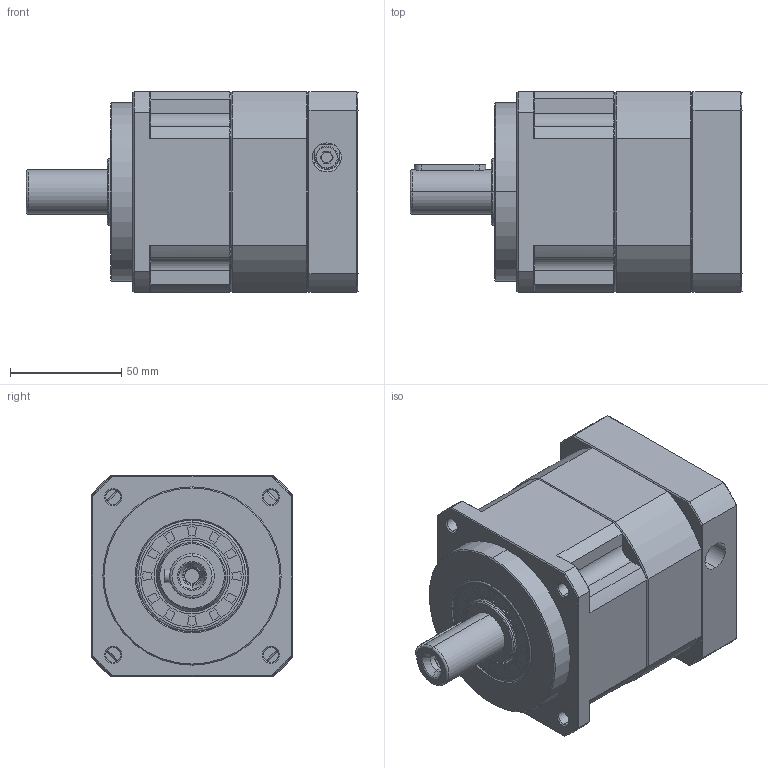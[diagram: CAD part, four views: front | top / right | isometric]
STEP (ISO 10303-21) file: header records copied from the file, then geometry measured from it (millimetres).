
FILE_DESCRIPTION (( 'STEP AP214' ), '1' );
FILE_NAME ('ZPB090-D20-L1-P1-8-38.1-47.14X47.14-M4.step', '2024-06-07T18:14:44', ( 'Windows 蚚誧' ), ( 'Organization' ), 'SwSTEP 2.0', 'SolidWorks 2016', '' );
FILE_SCHEMA (( 'AUTOMOTIVE_DESIGN' ));
Length unit declared in the file: millimetre
Products named in the file (1): ZPB090-D20-L1-P1-8-38.1-47.14X47.14-M4
Bounding box: 149 x 90 x 90 mm (x, y, z)
Surface area: 75910.6 mm2 (no closed solid volume)
Topology: 0 solids, 35 shells, 1821 faces, 4876 edges, 3116 vertices
Faces by surface type: plane 936, bspline 389, cone 276, cylinder 218, torus 2
Full cylindrical faces by diameter (mm): 6.72 x1
Entity records: 95028 total; most frequent: CARTESIAN_POINT 47756, ORIENTED_EDGE 9701, DIRECTION 7464, EDGE_CURVE 4871, VECTOR 3210, LINE 3210, VERTEX_POINT 3114, AXIS2_PLACEMENT_3D 2127
